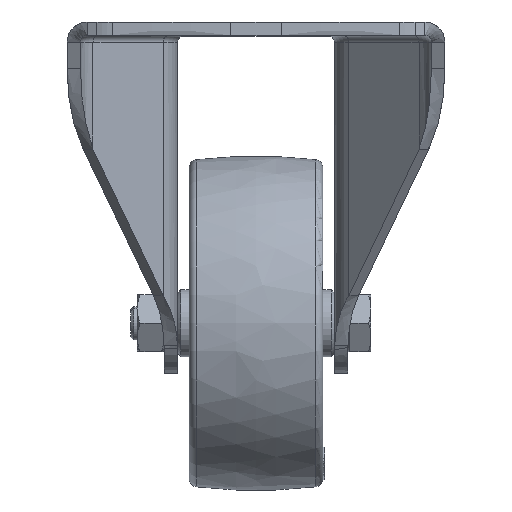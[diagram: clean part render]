
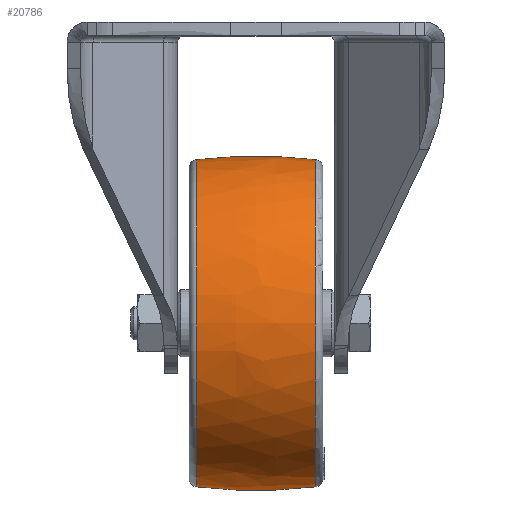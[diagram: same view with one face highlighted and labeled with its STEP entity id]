
A CAD part, top view. The second image highlights one B-rep face of the part: STEP entity #20786.
In plain terms, the highlighted free-form (B-spline) face has degree [3, 3] with [7, 4] control points.
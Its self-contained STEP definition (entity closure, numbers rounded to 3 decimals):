
#40 = CIRCLE ( 'NONE', #33161, 150. ) ;
#315 = DIRECTION ( 'NONE',  ( -0.119, 0.993, 0. ) ) ;
#2233 = EDGE_CURVE ( 'NONE', #19126, #55295, #40, .T. ) ;
#5078 = CARTESIAN_POINT ( 'NONE',  ( 6.2, -52.231, -27.781 ) ) ;
#5228 = CARTESIAN_POINT ( 'NONE',  ( 0., -100., 0. ) ) ;
#6825 = ORIENTED_EDGE ( 'NONE', *, *, #19801, .F. ) ;
#7215 = DIRECTION ( 'NONE',  ( 0., 1., 0. ) ) ;
#8022 = CARTESIAN_POINT ( 'NONE',  ( 6.2, 50.284, 3.164 ) ) ;
#8412 = CARTESIAN_POINT ( 'NONE',  ( -6.2, 0., -50.384 ) ) ;
#8458 = CARTESIAN_POINT ( 'NONE',  ( 17.797, 0., 0. ) ) ;
#8861 = CARTESIAN_POINT ( 'NONE',  ( -18.505, 30.065, -48.854 ) ) ;
#9948 = DIRECTION ( 'NONE',  ( 0., 0., -1. ) ) ;
#11259 = AXIS2_PLACEMENT_3D ( 'NONE', #30952, #53246, #22645 ) ;
#13337 = CARTESIAN_POINT ( 'NONE',  ( 6.2, -31.006, -50.384 ) ) ;
#14949 = CARTESIAN_POINT ( 'NONE',  ( -17.797, 48.941, 0. ) ) ;
#15061 = CARTESIAN_POINT ( 'NONE',  ( 17.797, -48.941, 0. ) ) ;
#16949 = CARTESIAN_POINT ( 'NONE',  ( -18.505, 50.646, -26.938 ) ) ;
#17050 =( BOUNDED_SURFACE ( )  B_SPLINE_SURFACE ( 3, 3, ( 
 ( #45407, #60103, #64516, #49387 ),
 ( #19491, #54935, #5078, #55376 ),
 ( #37629, #42730, #13337, #28789 ),
 ( #24282, #8412, #64834, #53998 ),
 ( #8861, #57550, #37266, #47494 ),
 ( #16949, #62880, #32368, #37492 ),
 ( #27526, #63165, #8022, #33325 ) ),
 .UNSPECIFIED., .F., .F., .F. ) 
 B_SPLINE_SURFACE_WITH_KNOTS ( ( 4, 3, 4 ),
 ( 4, 4 ),
 ( 0., 1., 2. ),
 ( 0., 1. ),
 .UNSPECIFIED. ) 
 GEOMETRIC_REPRESENTATION_ITEM ( )  RATIONAL_B_SPLINE_SURFACE ( (
 ( 1.192, 1.186, 1.186, 1.192),
 ( 0.941, 0.936, 0.936, 0.941),
 ( 0.941, 0.936, 0.936, 0.941),
 ( 1.192, 1.186, 1.186, 1.192),
 ( 0.941, 0.936, 0.936, 0.941),
 ( 0.941, 0.936, 0.936, 0.941),
 ( 1.192, 1.186, 1.186, 1.192) ) ) 
 REPRESENTATION_ITEM ( '' )  SURFACE ( )  );
#19126 = VERTEX_POINT ( 'NONE', #14949 ) ;
#19491 = CARTESIAN_POINT ( 'NONE',  ( -18.505, -50.646, -26.938 ) ) ;
#19801 = EDGE_CURVE ( 'NONE', #19126, #21178, #41057, .T. ) ;
#20786 = ADVANCED_FACE ( 'NONE', ( #61828 ), #17050, .T. ) ;
#21178 = VERTEX_POINT ( 'NONE', #45931 ) ;
#22645 = DIRECTION ( 'NONE',  ( -0.119, -0.993, 0. ) ) ;
#24282 = CARTESIAN_POINT ( 'NONE',  ( -18.505, 0., -48.854 ) ) ;
#26647 = EDGE_CURVE ( 'NONE', #21178, #36959, #47881, .T. ) ;
#27526 = CARTESIAN_POINT ( 'NONE',  ( -18.505, 48.758, 3.068 ) ) ;
#28789 = CARTESIAN_POINT ( 'NONE',  ( 18.505, -30.065, -48.854 ) ) ;
#30952 = CARTESIAN_POINT ( 'NONE',  ( 0., 100., 0. ) ) ;
#32368 = CARTESIAN_POINT ( 'NONE',  ( 6.2, 52.231, -27.781 ) ) ;
#33161 = AXIS2_PLACEMENT_3D ( 'NONE', #5228, #9948, #315 ) ;
#33325 = CARTESIAN_POINT ( 'NONE',  ( 18.505, 48.758, 3.068 ) ) ;
#33538 = CARTESIAN_POINT ( 'NONE',  ( 17.797, 48.941, 0. ) ) ;
#36599 = EDGE_LOOP ( 'NONE', ( #41748, #55329, #53423, #6825 ) ) ;
#36959 = VERTEX_POINT ( 'NONE', #15061 ) ;
#37266 = CARTESIAN_POINT ( 'NONE',  ( 6.2, 31.006, -50.384 ) ) ;
#37492 = CARTESIAN_POINT ( 'NONE',  ( 18.505, 50.646, -26.938 ) ) ;
#37629 = CARTESIAN_POINT ( 'NONE',  ( -18.505, -30.065, -48.854 ) ) ;
#40616 = CIRCLE ( 'NONE', #63245, 48.941 ) ;
#41057 = CIRCLE ( 'NONE', #44771, 48.941 ) ;
#41748 = ORIENTED_EDGE ( 'NONE', *, *, #2233, .T. ) ;
#42730 = CARTESIAN_POINT ( 'NONE',  ( -6.2, -31.006, -50.384 ) ) ;
#44505 = EDGE_CURVE ( 'NONE', #55295, #36959, #40616, .T. ) ;
#44771 = AXIS2_PLACEMENT_3D ( 'NONE', #47849, #52348, #7215 ) ;
#45407 = CARTESIAN_POINT ( 'NONE',  ( -18.505, -48.758, 3.068 ) ) ;
#45931 = CARTESIAN_POINT ( 'NONE',  ( -17.797, -48.941, 0. ) ) ;
#47494 = CARTESIAN_POINT ( 'NONE',  ( 18.505, 30.065, -48.854 ) ) ;
#47849 = CARTESIAN_POINT ( 'NONE',  ( -17.797, 0., 0. ) ) ;
#47881 = CIRCLE ( 'NONE', #11259, 150. ) ;
#49306 = DIRECTION ( 'NONE',  ( 0., 1., 0. ) ) ;
#49387 = CARTESIAN_POINT ( 'NONE',  ( 18.505, -48.758, 3.068 ) ) ;
#52348 = DIRECTION ( 'NONE',  ( -1., 0., 0. ) ) ;
#53246 = DIRECTION ( 'NONE',  ( 0., 0., 1. ) ) ;
#53423 = ORIENTED_EDGE ( 'NONE', *, *, #26647, .F. ) ;
#53998 = CARTESIAN_POINT ( 'NONE',  ( 18.505, 0., -48.854 ) ) ;
#54935 = CARTESIAN_POINT ( 'NONE',  ( -6.2, -52.231, -27.781 ) ) ;
#55295 = VERTEX_POINT ( 'NONE', #33538 ) ;
#55329 = ORIENTED_EDGE ( 'NONE', *, *, #44505, .T. ) ;
#55376 = CARTESIAN_POINT ( 'NONE',  ( 18.505, -50.646, -26.938 ) ) ;
#57550 = CARTESIAN_POINT ( 'NONE',  ( -6.2, 31.006, -50.384 ) ) ;
#58245 = DIRECTION ( 'NONE',  ( -1., 0., 0. ) ) ;
#60103 = CARTESIAN_POINT ( 'NONE',  ( -6.2, -50.284, 3.164 ) ) ;
#61828 = FACE_OUTER_BOUND ( 'NONE', #36599, .T. ) ;
#62880 = CARTESIAN_POINT ( 'NONE',  ( -6.2, 52.231, -27.781 ) ) ;
#63165 = CARTESIAN_POINT ( 'NONE',  ( -6.2, 50.284, 3.164 ) ) ;
#63245 = AXIS2_PLACEMENT_3D ( 'NONE', #8458, #58245, #49306 ) ;
#64516 = CARTESIAN_POINT ( 'NONE',  ( 6.2, -50.284, 3.164 ) ) ;
#64834 = CARTESIAN_POINT ( 'NONE',  ( 6.2, 0., -50.384 ) ) ;
